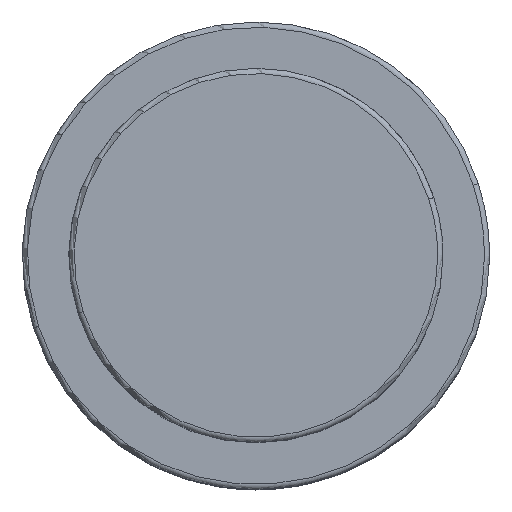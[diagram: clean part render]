
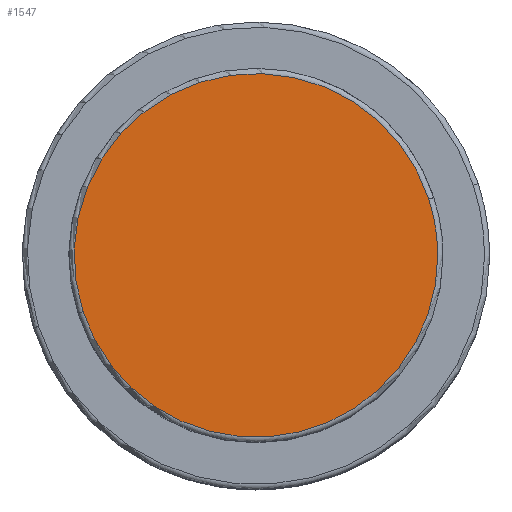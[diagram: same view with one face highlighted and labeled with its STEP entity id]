
A CAD part, top view. The second image highlights one B-rep face of the part: STEP entity #1547.
In plain terms, the highlighted planar face has unit normal (0, 0, 1).
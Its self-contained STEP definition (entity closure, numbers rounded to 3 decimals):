
#1480=CARTESIAN_POINT('',(16.643,5.408,48.0));
#1481=VERTEX_POINT('',#1480);
#1499=CARTESIAN_POINT('',(-16.643,-5.408,48.0));
#1500=VERTEX_POINT('',#1499);
#1508=CARTESIAN_POINT('',(0.0,0.0,48.0));
#1509=DIRECTION('',(0.0,0.0,1.0));
#1510=DIRECTION('',(1.0,0.0,0.0));
#1511=AXIS2_PLACEMENT_3D('',#1508,#1509,#1510);
#1512=CIRCLE('',#1511,17.5);
#1513=EDGE_CURVE('no 1757',#1481,#1500,#1512,.T.);
#1523=CARTESIAN_POINT('',(17.5,0.0,48.0));
#1524=VERTEX_POINT('',#1523);
#1525=CARTESIAN_POINT('',(0.0,0.0,48.0));
#1526=DIRECTION('',(0.0,0.0,1.0));
#1527=DIRECTION('',(1.0,0.0,0.0));
#1528=AXIS2_PLACEMENT_3D('',#1525,#1526,#1527);
#1529=CIRCLE('',#1528,17.5);
#1530=EDGE_CURVE('no 1766',#1524,#1481,#1529,.T.);
#1531=ORIENTED_EDGE('',*,*,#1530,.T.);
#1532=ORIENTED_EDGE('',*,*,#1513,.T.);
#1533=CARTESIAN_POINT('',(0.0,0.0,48.0));
#1534=DIRECTION('',(0.0,0.0,1.0));
#1535=DIRECTION('',(1.0,0.0,0.0));
#1536=AXIS2_PLACEMENT_3D('',#1533,#1534,#1535);
#1537=CIRCLE('',#1536,17.5);
#1538=EDGE_CURVE('no 1772',#1500,#1524,#1537,.T.);
#1539=ORIENTED_EDGE('',*,*,#1538,.T.);
#1540=EDGE_LOOP('',(#1531,#1532,#1539));
#1541=FACE_OUTER_BOUND('',#1540,.T.);
#1542=CARTESIAN_POINT('',(0.0,0.0,48.0));
#1543=DIRECTION('',(0.0,0.0,1.0));
#1544=DIRECTION('',(1.0,0.0,0.0));
#1545=AXIS2_PLACEMENT_3D('',#1542,#1543,#1544);
#1546=PLANE('',#1545);
#1547=ADVANCED_FACE('no 1759',(#1541),#1546,.T.);
